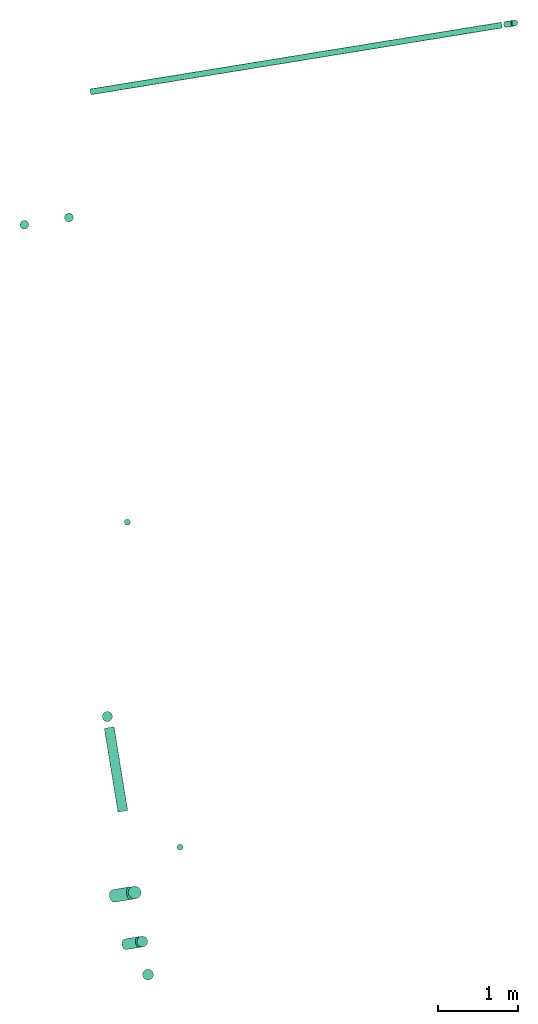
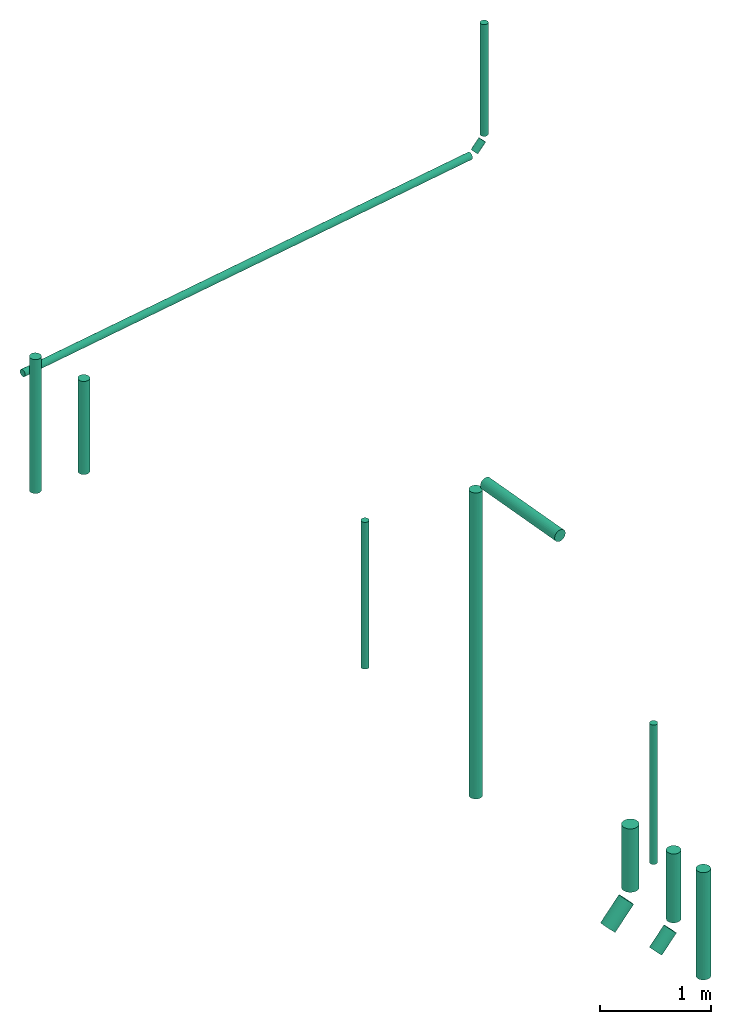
# One storey: 14 flow segments.
"""IFC2X3 building model written with IfcOpenShell, lengths in millimetres."""

from ifc_helpers import new_model, entity, si_unit, converted_unit, derived_unit, direction, frame, frame_2d, origin, origin_with_axes, origin_2d_with_axis, place, context, subcontext, project, spatial, circle, extrude, type_object, element, save


model = new_model("IFC2X3")

# Units and contexts
plan_context = context("Plan", 3, precision=1e-05, world=origin_with_axes())
model_context = context("Model", 3, precision=0.01, world=origin(), true_north=direction((6.12323399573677e-17, 1.0)))
body_context = subcontext(model_context, "Body", "Model", "MODEL_VIEW")
ifc_project = project(units=[converted_unit("PLANEANGLEUNIT", "DEGREE", entity("IfcPositiveLengthMeasure", 0.0174532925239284), si_unit("PLANEANGLEUNIT", "RADIAN"), dimensions=[0, 0, 0, 0, 0, 0, 0]), si_unit("AREAUNIT", "SQUARE_METRE"), si_unit("LENGTHUNIT", "METRE", prefix="MILLI"), si_unit("MASSUNIT", "GRAM", prefix="KILO"), si_unit("POWERUNIT", "WATT"), si_unit("PRESSUREUNIT", "PASCAL", prefix="KILO"), si_unit("FORCEUNIT", "NEWTON", prefix="KILO"), si_unit("ELECTRICVOLTAGEUNIT", "VOLT"), si_unit("ELECTRICCURRENTUNIT", "AMPERE"), si_unit("THERMODYNAMICTEMPERATUREUNIT", "DEGREE_CELSIUS"), si_unit("TIMEUNIT", "SECOND"), si_unit("VOLUMEUNIT", "CUBIC_METRE"), derived_unit("LINEARVELOCITYUNIT", [(si_unit("LENGTHUNIT", "METRE"), 1), (si_unit("TIMEUNIT", "SECOND"), -1)]), derived_unit("VOLUMETRICFLOWRATEUNIT", [(si_unit("VOLUMEUNIT", "CUBIC_METRE"), 1), (si_unit("TIMEUNIT", "SECOND"), -1)]), derived_unit("THERMALTRANSMITTANCEUNIT", [(si_unit("POWERUNIT", "WATT"), 1), (si_unit("THERMODYNAMICTEMPERATUREUNIT", "KELVIN"), -1), (si_unit("AREAUNIT", "SQUARE_METRE"), -1)]), derived_unit("SOUNDPRESSUREUNIT", [(si_unit("PRESSUREUNIT", "PASCAL"), 1)])], contexts=[model_context, plan_context])

# Site, building, storey
site_placement = place(None, frame((-0.000710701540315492, 0.00438415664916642, 0.0), z_axis=(0.0, 0.0, 1.0), x_axis=(-0.160236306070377, 0.987078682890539, 0.0)))
site = spatial("IfcSite", under=ifc_project, at=site_placement, Name="Default", CompositionType="ELEMENT")
building_placement = place(site_placement, origin_with_axes())
building = spatial("IfcBuilding", under=site, at=building_placement, CompositionType="ELEMENT")
storey_placement = place(building_placement, frame((0.0, 0.0, 55630.0), z_axis=(0.0, 0.0, 1.0), x_axis=(1.0, 0.0, 0.0)))
storey = spatial("IfcBuildingStorey", under=building, at=storey_placement, Name="Nivå E", CompositionType="ELEMENT", Elevation=55630.0)

# Flow segments
pipe_segment_type_1 = type_object("IfcPipeSegmentType", Name="Pipe Types:MA", PredefinedType="NOTDEFINED")
flow_segment_1_placement = place(storey_placement, origin_with_axes())
element("IfcFlowSegment", 1, at=flow_segment_1_placement, inside=storey, type_object=pipe_segment_type_1, Name="Pipe Types:MA", ObjectType="Pipe Types:MA", context=body_context, shape_type="SweptSolid", body=[
    extrude(circle(Radius=67.5, at=origin_2d_with_axis()), frame((771672.596197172, -501322.253600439, 2189.68841501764), z_axis=(0.0, 0.0, 1.0), x_axis=(-1.0, 0.0, 0.0)), (0.0, 0.0, 1.0), 1182.96048595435),
])
flow_segment_2_placement = place(storey_placement, origin_with_axes())
element("IfcFlowSegment", 2, at=flow_segment_2_placement, inside=storey, type_object=pipe_segment_type_1, Name="Pipe Types:MA", ObjectType="Pipe Types:MA", context=body_context, shape_type="SweptSolid", body=[
    extrude(circle(Radius=67.5, at=origin_2d_with_axis()), frame((772092.619232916, -501108.691602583, 2327.27736149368), z_axis=(0.0, -0.707106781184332, 0.707106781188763), x_axis=(-1.0, 0.0, 0.0)), (0.0, 0.0, 1.0), 240.446828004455),
])
flow_segment_3_placement = place(storey_placement, origin_with_axes())
element("IfcFlowSegment", 3, at=flow_segment_3_placement, inside=storey, type_object=pipe_segment_type_1, Name="Pipe Types:MA", ObjectType="Pipe Types:MA", context=body_context, shape_type="SweptSolid", body=[
    extrude(circle(Radius=67.5, at=origin_2d_with_axis()), frame((772092.619232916, -501318.253769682, 2592.7583595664), z_axis=(0.0, 0.0, 1.0), x_axis=(-1.0, 0.0, 0.0)), (0.0, 0.0, 1.0), 759.081168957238),
])
flow_segment_4_placement = place(storey_placement, origin_with_axes())
element("IfcFlowSegment", 4, at=flow_segment_4_placement, inside=storey, type_object=pipe_segment_type_1, Name="Pipe Types:MA", ObjectType="Pipe Types:MA", context=body_context, shape_type="SweptSolid", body=[
    extrude(circle(Radius=37.5, at=origin_2d_with_axis()), frame((782692.619644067, -507761.542846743, 2638.74999999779)), (0.0, 0.0, 1.0), 1231.25000000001),
])
flow_segment_5_placement = place(storey_placement, origin_with_axes())
element("IfcFlowSegment", 5, at=flow_segment_5_placement, inside=storey, type_object=pipe_segment_type_1, Name="Pipe Types:MA", ObjectType="Pipe Types:MA", context=body_context, shape_type="SweptSolid", body=[
    extrude(circle(Radius=37.5, at=origin_2d_with_axis()), frame((773182.619644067, -501974.490955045, 2333.75156574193)), (0.0, 0.0, 1.0), 1536.24843425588),
])
flow_segment_6_placement = place(storey_placement, origin_with_axes())
element("IfcFlowSegment", 6, at=flow_segment_6_placement, inside=storey, type_object=pipe_segment_type_1, Name="Pipe Types:MA", ObjectType="Pipe Types:MA", context=body_context, shape_type="SweptSolid", body=[
    extrude(circle(Radius=37.5, at=origin_2d_with_axis()), frame((777302.619644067, -501974.131042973, 2251.87368246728)), (0.0, 0.0, 1.0), 1618.12631753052),
])
flow_segment_7_placement = place(storey_placement, origin_with_axes())
element("IfcFlowSegment", 7, at=flow_segment_7_placement, inside=storey, type_object=pipe_segment_type_1, Name="Pipe Types:MA", ObjectType="Pipe Types:MA", context=body_context, shape_type="SweptSolid", body=[
    extrude(circle(Radius=37.5, at=origin_2d_with_axis()), frame((782692.619644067, -507648.138238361, 2494.27937443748), z_axis=(0.0, -0.707106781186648, 0.707106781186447), x_axis=(1.0, 0.0, 0.0)), (0.0, 0.0, 1.0), 129.312318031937),
])
flow_segment_8_placement = place(storey_placement, origin_with_axes())
element("IfcFlowSegment", 8, at=flow_segment_8_placement, inside=storey, type_object=pipe_segment_type_1, Name="Pipe Types:MA", ObjectType="Pipe Types:MA", context=body_context, shape_type="SweptSolid", body=[
    extrude(circle(Radius=37.5, at=origin_2d_with_axis()), frame((782692.619644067, -502381.914130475, 2385.43223852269), z_axis=(0.0, -0.999861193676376, 0.0166611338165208), x_axis=(1.0, 0.0, 0.0)), (0.0, 0.0, 1.0), 5215.16482364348),
])
flow_segment_9_placement = place(storey_placement, origin_with_axes())
element("IfcFlowSegment", 9, at=flow_segment_9_placement, inside=storey, type_object=pipe_segment_type_1, Name="Pipe Types:MA", ObjectType="Pipe Types:MA", context=body_context, shape_type="SweptSolid", body=[
    extrude(circle(Radius=55.0, at=origin_2d_with_axis()), frame((781183.478688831, -501863.828201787, 2352.60836506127)), (0.0, 0.0, 1.0), 1027.05089319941),
])
flow_segment_10_placement = place(storey_placement, origin_with_axes())
element("IfcFlowSegment", 10, at=flow_segment_10_placement, inside=storey, type_object=pipe_segment_type_1, Name="Pipe Types:MA", ObjectType="Pipe Types:MA", context=body_context, shape_type="SweptSolid", body=[
    extrude(circle(Radius=55.0, at=origin_2d_with_axis()), frame((781183.478688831, -501299.091733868, 2393.72213966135)), (0.0, 0.0, 1.0), 1476.27786033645),
])
pipe_segment_type_2 = type_object("IfcPipeSegmentType", Name="Pipe Types:Rustfrie stålrør", PredefinedType="NOTDEFINED")
flow_segment_11_placement = place(storey_placement, origin_with_axes())
element("IfcFlowSegment", 11, at=flow_segment_11_placement, inside=storey, type_object=pipe_segment_type_2, Name="Pipe Types:Rustfrie stålrør", ObjectType="Pipe Types:Rustfrie stålrør", context=body_context, shape_type="SweptSolid", body=[
    extrude(circle(Radius=80.0000001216, at=origin_2d_with_axis()), frame((772713.737290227, -501320.862780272, 2600.25820747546)), (0.0, 0.0, 1.0), 698.80699909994),
])
flow_segment_12_placement = place(storey_placement, origin_with_axes())
element("IfcFlowSegment", 12, at=flow_segment_12_placement, inside=storey, type_object=pipe_segment_type_2, Name="Pipe Types:Rustfrie stålrør", ObjectType="Pipe Types:Rustfrie stålrør", context=body_context, shape_type="SweptSolid", body=[
    extrude(circle(Radius=80.0000001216, at=frame_2d((0.0, 6.12562152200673e-12), x_axis=(1.0, 0.0))), frame((772713.737290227, -501058.747123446, 2271.86838067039), z_axis=(0.0, -0.707106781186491, 0.707106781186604), x_axis=(1.0, 0.0, 0.0)), (0.0, 0.0, 1.0), 304.413346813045),
])
flow_segment_13_placement = place(storey_placement, origin_with_axes())
element("IfcFlowSegment", 13, at=flow_segment_13_placement, inside=storey, type_object=pipe_segment_type_2, Name="Pipe Types:Rustfrie stålrør", ObjectType="Pipe Types:Rustfrie stålrør", context=body_context, shape_type="SweptSolid", body=[
    extrude(circle(Radius=62.500000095, at=origin_2d_with_axis()), frame((774942.180932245, -501338.636729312, 2399.96624880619), z_axis=(0.0, 0.0, 1.0), x_axis=(-1.0, 0.0, 0.0)), (0.0, 0.0, 1.0), 3373.30073007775),
])
flow_segment_14_placement = place(storey_placement, origin_with_axes())
element("IfcFlowSegment", 14, at=flow_segment_14_placement, inside=storey, type_object=pipe_segment_type_2, Name="Pipe Types:Rustfrie stålrør", ObjectType="Pipe Types:Rustfrie stålrør", context=body_context, shape_type="SweptSolid", body=[
    extrude(circle(Radius=62.500000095, at=frame_2d((9.7024894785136e-10, 0.0), x_axis=(1.0, 0.0))), frame((773740.087988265, -501338.636729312, 5913.06697888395), z_axis=(1.0, 0.0, 0.0), x_axis=(0.0, 1.0, 0.0)), (0.0, 0.0, 1.0), 1062.29294398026),
])

save(model, "model.ifc")
